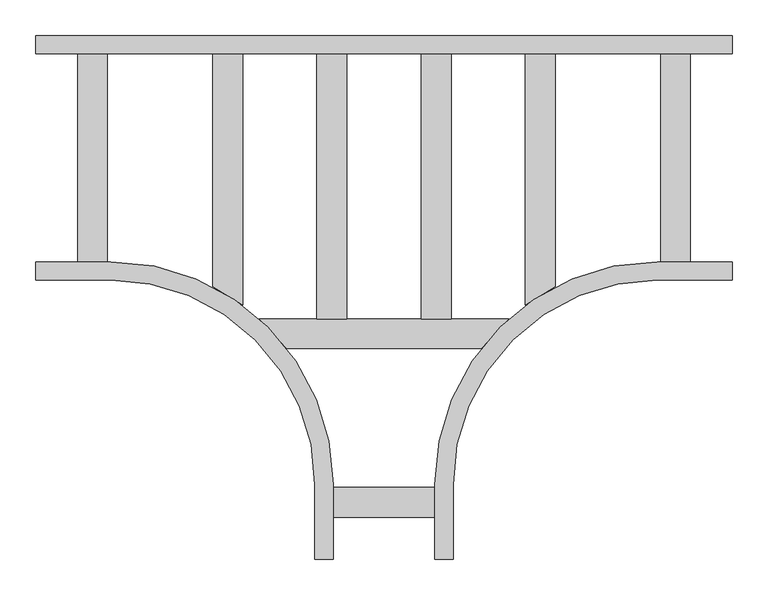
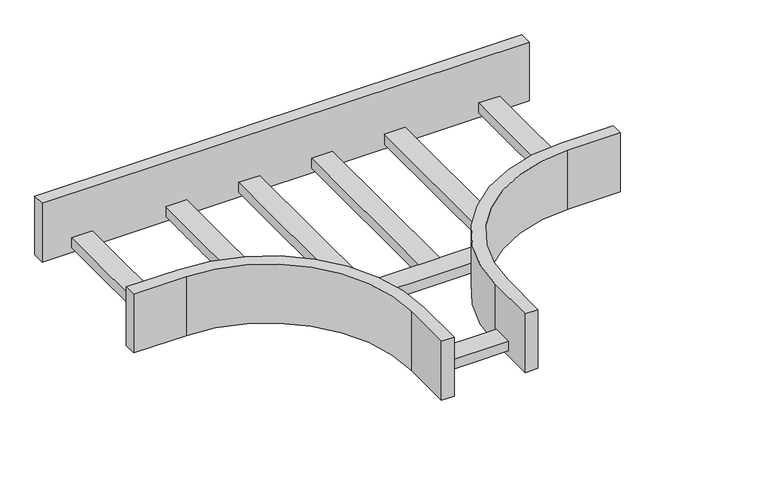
"""IFC4 building model written with IfcOpenShell, lengths in millimetres: cable carrier fitting geometry, Legrand_CableLadder_Swifts_Sapphire_Tee-300R-13 : Hot Dip Galvanised (after manufacture)."""

from ifc_helpers import new_model, si_unit, point, frame, frame_2d, origin, place, context, project, spatial, polyline, circle_curve, trimmed, segment, composite_curve, outline, extrude, source, transform, mapped, element, save


def cable_carrier_fitting_3950a025(model_context):
    return source(origin(), model_context, "Body", "SweptSolid", [
        extrude(outline(composite_curve([segment(polyline([(-240.875, 146.5), (-198.875, 146.5), (-198.875, -207.3598019)]), True, "CONTINUOUS"), segment(trimmed(circle_curve(frame_2d((-384.25, -459.25)), 312.75), [point((-198.875, -207.3598019))], [point((-240.875, -181.3000551))], True, "CARTESIAN"), True, "CONTINUOUS"), segment(polyline([(-240.875, -181.3000551), (-240.875, 146.5)]), True, "CONTINUOUS")], self_intersect=False)), frame((0.0, 0.0, -52.5), z_axis=(0.0, 0.0, 1.0), x_axis=(1.0, 0.0, 0.0)), (0.0, 0.0, 1.0), 21.0),
        extrude(outline(composite_curve([segment(polyline([(198.875, 146.5), (240.875, 146.5), (240.875, -181.3000551)]), True, "CONTINUOUS"), segment(trimmed(circle_curve(frame_2d((384.25, -459.25)), 312.75), [point((240.875, -181.3000551))], [point((198.875, -207.3598019))], True, "CARTESIAN"), True, "CONTINUOUS"), segment(polyline([(198.875, -207.3598019), (198.875, 146.5)]), True, "CONTINUOUS")], self_intersect=False)), frame((0.0, 0.0, -52.5), z_axis=(0.0, 0.0, 1.0), x_axis=(1.0, 0.0, 0.0)), (0.0, 0.0, 1.0), 21.0),
        extrude(outline(polyline([(-94.2916667, -226.5), (-94.2916667, 146.5), (-52.2916667, 146.5), (-52.2916667, -226.5), (-94.2916667, -226.5)])), frame((0.0, 0.0, -52.5), z_axis=(0.0, 0.0, 1.0), x_axis=(1.0, 0.0, 0.0)), (0.0, 0.0, 1.0), 21.0),
        extrude(outline(polyline([(52.2916667, -226.5), (52.2916667, 146.5), (94.2916667, 146.5), (94.2916667, -226.5), (52.2916667, -226.5)])), frame((0.0, 0.0, -52.5), z_axis=(0.0, 0.0, 1.0), x_axis=(1.0, 0.0, 0.0)), (0.0, 0.0, 1.0), 21.0),
        extrude(outline(polyline([(71.5, -463.75), (71.5, -505.75), (-71.5, -505.75), (-71.5, -463.75), (71.5, -463.75)])), frame((0.0, 0.0, -52.5), z_axis=(0.0, 0.0, 1.0), x_axis=(1.0, 0.0, 0.0)), (0.0, 0.0, 1.0), 21.0),
        extrude(outline(polyline([(-430.75, -146.5), (-430.75, 146.5), (-388.75, 146.5), (-388.75, -146.5), (-430.75, -146.5)])), frame((0.0, 0.0, -52.5), z_axis=(0.0, 0.0, 1.0), x_axis=(1.0, 0.0, 0.0)), (0.0, 0.0, 1.0), 21.0),
        extrude(outline(polyline([(430.75, -146.5), (388.75, -146.5), (388.75, 146.5), (430.75, 146.5), (430.75, -146.5)])), frame((0.0, 0.0, -52.5), z_axis=(0.0, 0.0, 1.0), x_axis=(1.0, 0.0, 0.0)), (0.0, 0.0, 1.0), 21.0),
        extrude(outline(composite_curve([segment(polyline([(136.4052906, -268.5), (-136.4052906, -268.5)]), True, "CONTINUOUS"), segment(trimmed(circle_curve(frame_2d((-384.25, -459.25)), 312.75), [point((-136.4052906, -268.5))], [point((-175.3481092, -226.5))], True, "CARTESIAN"), True, "CONTINUOUS"), segment(polyline([(-175.3481092, -226.5), (175.3481092, -226.5)]), True, "CONTINUOUS"), segment(trimmed(circle_curve(frame_2d((384.25, -459.25)), 312.75), [point((175.3481092, -226.5))], [point((136.4052906, -268.5))], True, "CARTESIAN"), True, "CONTINUOUS")], self_intersect=False)), frame((0.0, 0.0, -52.5), z_axis=(0.0, 0.0, 1.0), x_axis=(1.0, 0.0, 0.0)), (0.0, 0.0, 1.0), 21.0),
        extrude(outline(composite_curve([segment(polyline([(489.75, -146.5), (489.75, -172.0), (384.25, -172.0)]), True, "CONTINUOUS"), segment(trimmed(circle_curve(frame_2d((384.25, -459.25)), 287.25), [point((384.25, -172.0))], [point((97.0, -459.25))], True, "CARTESIAN"), True, "CONTINUOUS"), segment(polyline([(97.0, -459.25), (97.0, -564.75), (71.5, -564.75), (71.5, -459.25)]), True, "CONTINUOUS"), segment(trimmed(circle_curve(frame_2d((384.25, -459.25)), 312.75), [point((71.5, -459.25))], [point((384.25, -146.5))], False, "CARTESIAN"), True, "CONTINUOUS"), segment(polyline([(384.25, -146.5), (489.75, -146.5)]), True, "CONTINUOUS")], self_intersect=False)), frame((0.0, 0.0, -62.5), z_axis=(0.0, 0.0, 1.0), x_axis=(1.0, 0.0, 0.0)), (0.0, 0.0, 1.0), 125.0),
        extrude(outline(composite_curve([segment(polyline([(-489.75, -172.0), (-489.75, -146.5), (-384.25, -146.5)]), True, "CONTINUOUS"), segment(trimmed(circle_curve(frame_2d((-384.25, -459.25)), 312.75), [point((-384.25, -146.5))], [point((-71.5, -459.25))], False, "CARTESIAN"), True, "CONTINUOUS"), segment(polyline([(-71.5, -459.25), (-71.5, -564.75), (-97.0, -564.75), (-97.0, -459.25)]), True, "CONTINUOUS"), segment(trimmed(circle_curve(frame_2d((-384.25, -459.25)), 287.25), [point((-97.0, -459.25))], [point((-384.25, -172.0))], True, "CARTESIAN"), True, "CONTINUOUS"), segment(polyline([(-384.25, -172.0), (-489.75, -172.0)]), True, "CONTINUOUS")], self_intersect=False)), frame((0.0, 0.0, -62.5), z_axis=(0.0, 0.0, 1.0), x_axis=(1.0, 0.0, 0.0)), (0.0, 0.0, 1.0), 125.0),
        extrude(outline(polyline([(-489.75, 146.5), (-489.75, 172.0), (489.75, 172.0), (489.75, 146.5), (-489.75, 146.5)])), frame((0.0, 0.0, -62.5), z_axis=(0.0, 0.0, 1.0), x_axis=(1.0, 0.0, 0.0)), (0.0, 0.0, 1.0), 125.0),
    ])


if __name__ == "__main__":
    model = new_model("IFC4")
    model_context = context("Model", 3, world=origin())
    ifc_project = project(units=[si_unit("LENGTHUNIT", "METRE", prefix="MILLI")], contexts=[model_context])
    site = spatial("IfcSite", under=ifc_project)
    building = spatial("IfcBuilding", under=site)
    placement = place(None, origin())
    cable_carrier_fitting_shape = cable_carrier_fitting_3950a025(model_context)
    element("IfcCableCarrierFitting", 1, ObjectType="Legrand_CableLadder_Swifts_Sapphire_Tee-300R-13 : Hot Dip Galvanised (after manufacture)", at=placement, inside=building, context=model_context, shape_type="MappedRepresentation", body=[
        mapped(cable_carrier_fitting_shape, transform((0.0, 0.0, 0.0), x_axis=(1.0, 0.0, 0.0), y_axis=(0.0, 1.0, 0.0), z_axis=(0.0, 0.0, 1.0))),
    ])
    save(model, "model.ifc")
